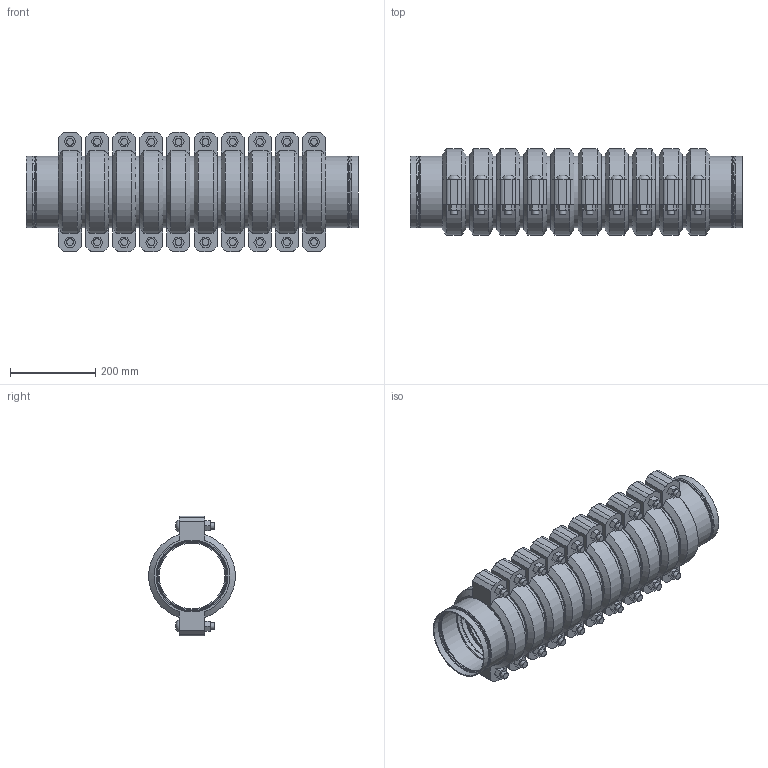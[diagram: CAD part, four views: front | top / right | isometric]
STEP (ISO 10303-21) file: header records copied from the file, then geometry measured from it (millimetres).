
FILE_DESCRIPTION(/* description */ ('VIC STRENGTHIN 100 EXPANSION JOINT 10 COUPLINGS NEUTRAL STYLE E155 (ST1)','CAx-IF Rec.Pracs.---Representation and Presentation of Product Manufacturing Information (PMI)---4.0---2014-10-13'),/* implementation_level */ '2;1');
FILE_NAME(/* name */ 'C:\Users\Vjadhav\AppData\Roaming\Autodesk\ApplicationPlugins\Victaulic.Temp\A165\Victaulic_SS-StrengThin 100_Expansion Joint_Neutral_10 Couplings_Style E155 (ST1)_10 Coup_Neut_6 (150).stp',/* time_stamp */ '2021-07-20T17:40:02+05:00',/* author */ ('kkamble'),/* organization */ ('Victaulic'),/* preprocessor_version */ 'ST-DEVELOPER v17.2',/* originating_system */ 'Autodesk Inventor 2019',/* authorisation */ '');
FILE_SCHEMA (('AP242_MANAGED_MODEL_BASED_3D_ENGINEERING_MIM_LF { 1 0 10303 442 1 1 4 }'));
Length unit declared in the file: inch
Products named in the file (4): E155-06.0; E494G-06.0; Nipple-06.0; 075-06.0
Assembly tree (21 placements, depth 2):
  E155-06.0
    E494G-06.0  x2
    Nipple-06.0  x9
    075-06.0  x10
Bounding box: 778.26 x 202.46 x 281.18 mm (x, y, z)
Volume: 9531491.1 mm3; surface area: 2012501.7 mm2
Topology: 21 solids, 41 shells, 746 faces, 1822 edges, 1282 vertices
Faces by surface type: plane 426, cylinder 224, cone 44, torus 32, bspline 20
Full cylindrical faces by diameter (mm): 15.875 x40, 17.424 x20, 154.051 x9, 159.258 x2, 159.944 x2, 161.925 x10, 163.271 x2, 163.957 x20, 164.262 x6, 168.275 x53
Entity records: 3830 total; most frequent: DIRECTION 685, CARTESIAN_POINT 667, ORIENTED_EDGE 548, AXIS2_PLACEMENT_3D 293, EDGE_CURVE 274, VERTEX_POINT 197, CIRCLE 167, EDGE_LOOP 129
